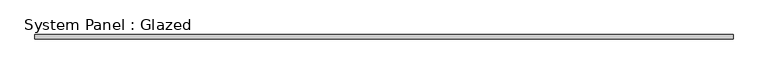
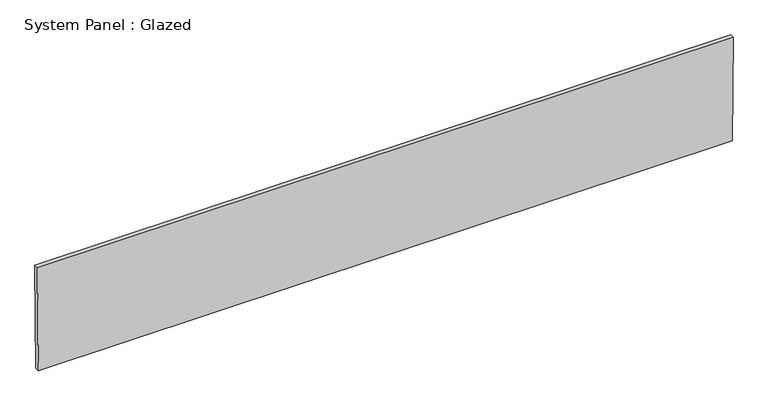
"""IFC4 building model written with IfcOpenShell, lengths in millimetres: plate geometry, System Panel : Glazed."""

from ifc_helpers import new_model, si_unit, frame, origin, place, context, project, spatial, polyline, outline, extrude, source, transform, mapped, element, save


def system_panel_glazed_ddc6f969(model_context):
    return source(origin(), model_context, "Body", "SweptSolid", [
        extrude(outline(polyline([(0.0, -1990.7093222), (0.0, 1990.7093222), (625.9212495, 1995.3843883), (625.9212495, -1995.3843883), (0.0, -1990.7093222)])), frame((0.0, 19.05, 0.0), z_axis=(0.0, 1.0, 0.0), x_axis=(0.0, 0.0, 1.0)), (0.0, 0.0, 1.0), 25.4),
    ])


if __name__ == "__main__":
    model = new_model("IFC4")
    model_context = context("Model", 3, world=origin())
    ifc_project = project(units=[si_unit("LENGTHUNIT", "METRE", prefix="MILLI")], contexts=[model_context])
    site = spatial("IfcSite", under=ifc_project)
    building = spatial("IfcBuilding", under=site)
    placement = place(None, origin())
    system_panel_glazed_shape = system_panel_glazed_ddc6f969(model_context)
    element("IfcPlate", 1, ObjectType="System Panel : Glazed", at=placement, inside=building, context=model_context, shape_type="MappedRepresentation", body=[
        mapped(system_panel_glazed_shape, transform((0.0, 0.0, 0.0), x_axis=(1.0, 0.0, 0.0), y_axis=(0.0, 1.0, 0.0), z_axis=(0.0, 0.0, 1.0))),
    ])
    save(model, "model.ifc")
